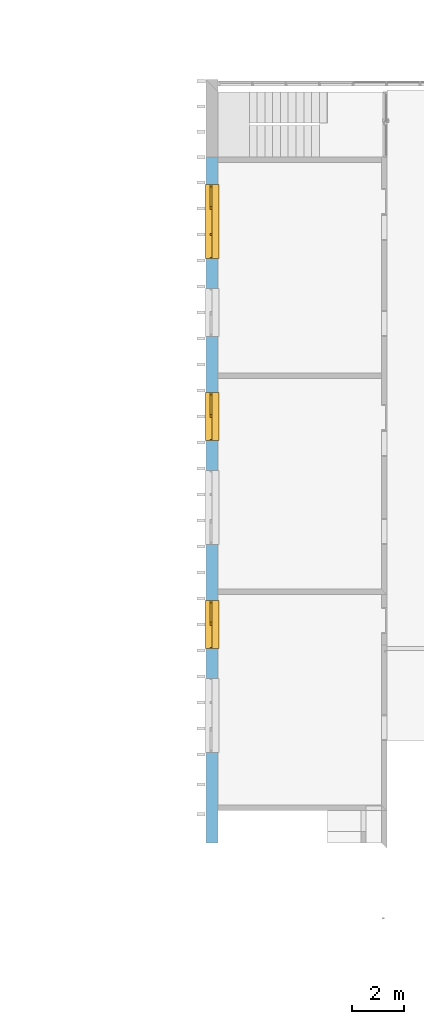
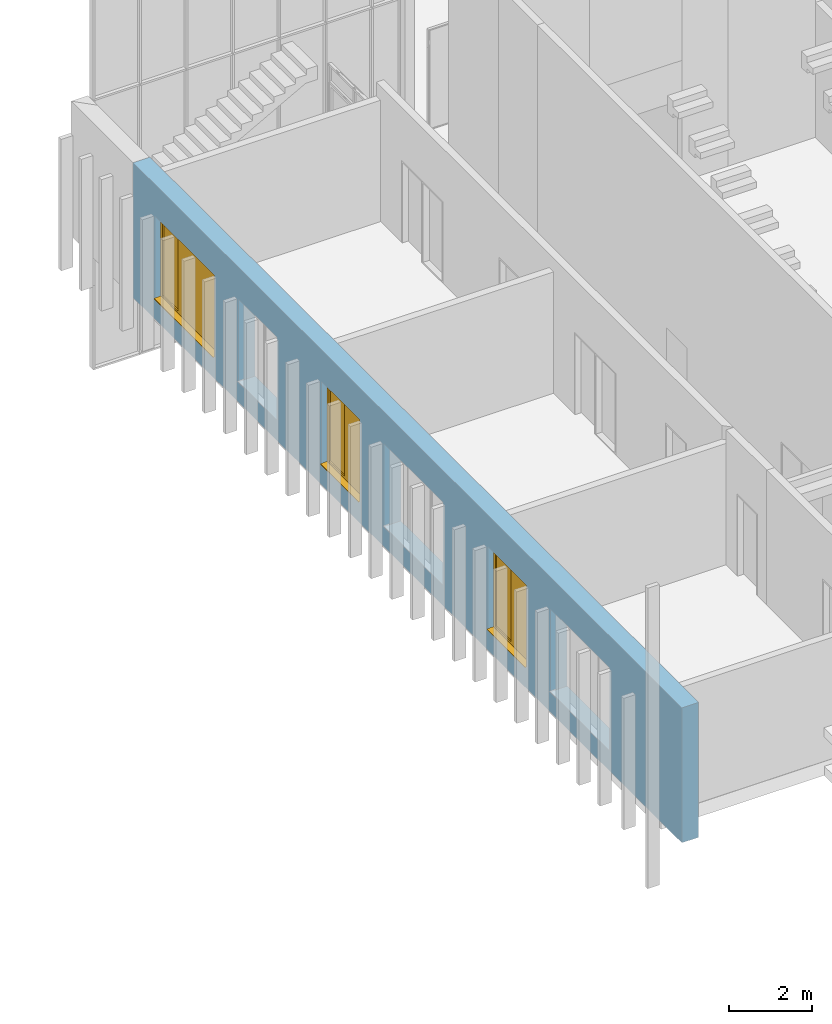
# One storey, part 33 of 62: 3 windows, 6 openings, plus 1 element that does not belong to this part.
"""IFC2X3 building model written with IfcOpenShell, lengths in millimetres."""

from ifc_helpers import new_model, entity, si_unit, converted_unit, derived_unit, money_unit, direction, frame, origin_with_axes, origin_2d_with_axis, place, context, subcontext, project, spatial, polyline, rectangle, outline, extrude, open_shell, faceted_brep, surface_model, material, layer, layer_set, layer_usage, type_object, element, fill, save


model = new_model("IFC2X3")

# Units and contexts
model_context = context("Model", 3, precision=0.01, world=origin_with_axes(), true_north=direction((0.0, 1.0)))
body_context = subcontext(model_context, "Body", "Model", "MODEL_VIEW")
ifc_project = project(units=[si_unit("LENGTHUNIT", "METRE", prefix="MILLI"), si_unit("AREAUNIT", "SQUARE_METRE"), si_unit("VOLUMEUNIT", "CUBIC_METRE"), converted_unit("PLANEANGLEUNIT", "DEGREE", entity("IfcPlaneAngleMeasure", 0.0174532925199), si_unit("PLANEANGLEUNIT", "RADIAN"), dimensions=[0, 0, 0, 0, 0, 0, 0]), si_unit("SOLIDANGLEUNIT", "STERADIAN"), money_unit("EUR"), converted_unit("TIMEUNIT", "Year", entity("IfcTimeMeasure", 31556926.0), si_unit("TIMEUNIT", "SECOND"), dimensions=[0, 0, 1, 0, 0, 0, 0]), si_unit("MASSUNIT", "GRAM", prefix="KILO"), si_unit("THERMODYNAMICTEMPERATUREUNIT", "DEGREE_CELSIUS"), si_unit("LUMINOUSINTENSITYUNIT", "LUMEN"), si_unit("ENERGYUNIT", "JOULE", prefix="MEGA"), derived_unit("THERMALCONDUCTANCEUNIT", [(si_unit("POWERUNIT", "WATT"), 1), (si_unit("LENGTHUNIT", "METRE"), -1), (si_unit("THERMODYNAMICTEMPERATUREUNIT", "KELVIN"), -1)]), derived_unit("SPECIFICHEATCAPACITYUNIT", [(si_unit("ENERGYUNIT", "JOULE"), 1), (si_unit("MASSUNIT", "GRAM", prefix="KILO"), -1), (si_unit("THERMODYNAMICTEMPERATUREUNIT", "KELVIN"), -1)]), derived_unit("MASSDENSITYUNIT", [(si_unit("MASSUNIT", "GRAM", prefix="KILO"), 1), (si_unit("VOLUMEUNIT", "CUBIC_METRE"), -1)])], contexts=[model_context])

# Site, building, storey
site_placement = place(None, origin_with_axes())
site = spatial("IfcSite", under=ifc_project, at=site_placement, Name="Puškini 31, Narva", CompositionType="ELEMENT")
building_placement = place(site_placement, origin_with_axes())
building = spatial("IfcBuilding", under=site, at=building_placement, Name="Narva Riigigümnaasium", CompositionType="ELEMENT")
storey_placement = place(building_placement, frame((0.0, 0.0, 660.0), z_axis=(0.0, 0.0, 1.0), x_axis=(1.0, 0.0, 0.0)))
storey = spatial("IfcBuildingStorey", under=building, at=storey_placement, Name="2.korrus +0.66", CompositionType="ELEMENT", Elevation=660.0)

# Wall, openings, windows
ifc_material_1 = material(Name="fassaadiplaat")
ifc_layer_1 = layer(ifc_material_1, 8.0, ventilated="UNKNOWN")
ifc_material_2 = material(Name="Salto-roovitus")
ifc_layer_2 = layer(ifc_material_2, 50.0, ventilated="UNKNOWN")
ifc_material_3 = material(Name="Salto-PIR soojustus")
ifc_layer_3 = layer(ifc_material_3, 50.0, ventilated="UNKNOWN")
ifc_layer_4 = layer(ifc_material_3, 150.0, ventilated="UNKNOWN")
ifc_material_4 = material(Name="Betoon element")
ifc_layer_5 = layer(ifc_material_4, 200.0, ventilated="UNKNOWN")
ifc_material_5 = material(Name="Salto-siseviimistlus-seinad")
ifc_layer_6 = layer(ifc_material_5, 10.0, ventilated="UNKNOWN")
ifc_layer_set = layer_set([ifc_layer_1, ifc_layer_2, ifc_layer_3, ifc_layer_4, ifc_layer_5, ifc_layer_6], Name="G-VS-01")
ifc_layer_usage = layer_usage(ifc_layer_set, "AXIS2", "NEGATIVE", 458.0)
wall_type = type_object("IfcWallType", Name="G-VS-01 468", PredefinedType="NOTDEFINED")
wall_placement = place(storey_placement, frame((28400.0401775, 194899.999976, 0.0), z_axis=(0.0, 0.0, 1.0), x_axis=(0.0, 1.0, 0.0)))
wall = element("IfcWallStandardCase", 1, at=wall_placement, inside=storey, type_object=wall_type, material=ifc_layer_usage, Name="Välissein", context=body_context, shape_type="SweptSolid", body=[
    extrude(outline(polyline([(2.37781989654e-05, -10.0), (26380.0000226, -10.0), (26380.0000226, 458.0), (2.37781989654e-05, 458.0), (2.37781989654e-05, -10.0)])), origin_with_axes(), (0.0, 0.0, 1.0), 3960.0),
])
opening_1_placement = place(wall_placement, frame((23900.0000267, 0.0, 600.0), z_axis=(0.0, 0.0, 1.0), x_axis=(1.0, 0.0, 0.0)))
opening_1 = element("IfcOpeningElement", 2, at=opening_1_placement, cuts=wall, Name="G-A-38", context=body_context, shape_type="SweptSolid", body=[
    extrude(rectangle(XDim=2849.99999873, YDim=2430.0, at=origin_2d_with_axis()), frame((0.0, 308.0, 1215.0), z_axis=(0.0, 1.0, 0.0), x_axis=(-1.0, 0.0, 0.0)), (0.0, 0.0, -1.0), 786.0),
    extrude(rectangle(XDim=2849.99999873, YDim=2430.0, at=origin_2d_with_axis()), frame((0.0, 308.0, 1215.0), z_axis=(0.0, -1.0, 0.0), x_axis=(-1.0, 0.0, 0.0)), (0.0, 0.0, -1.0), 618.0),
])
opening_2_placement = place(wall_placement, frame((16400.00003, 0.0, 600.0), z_axis=(0.0, 0.0, 1.0), x_axis=(1.0, 0.0, 0.0)))
opening_2 = element("IfcOpeningElement", 3, at=opening_2_placement, cuts=wall, Name="G-A-36", context=body_context, shape_type="SweptSolid", body=[
    extrude(rectangle(XDim=1849.99999918, YDim=2430.0, at=origin_2d_with_axis()), frame((0.0, 308.0, 1215.0), z_axis=(0.0, 1.0, 0.0), x_axis=(-1.0, 0.0, 0.0)), (0.0, 0.0, -1.0), 786.0),
    extrude(rectangle(XDim=1849.99999918, YDim=2430.0, at=origin_2d_with_axis()), frame((0.0, 308.0, 1215.0), z_axis=(0.0, -1.0, 0.0), x_axis=(-1.0, 0.0, 0.0)), (0.0, 0.0, -1.0), 618.0),
])
opening_3_placement = place(wall_placement, frame((8400.005406, 0.0, 600.0), z_axis=(0.0, 0.0, 1.0), x_axis=(1.0, 0.0, 0.0)))
opening_3 = element("IfcOpeningElement", 4, at=opening_3_placement, cuts=wall, Name="G-A-36", context=body_context, shape_type="SweptSolid", body=[
    extrude(rectangle(XDim=1850.0, YDim=2430.0, at=origin_2d_with_axis()), frame((0.0, 308.0, 1215.0), z_axis=(0.0, 1.0, 0.0), x_axis=(-1.0, 0.0, 0.0)), (0.0, 0.0, -1.0), 786.0),
    extrude(rectangle(XDim=1850.0, YDim=2430.0, at=origin_2d_with_axis()), frame((0.0, 308.0, 1215.0), z_axis=(0.0, -1.0, 0.0), x_axis=(-1.0, 0.0, 0.0)), (0.0, 0.0, -1.0), 618.0),
])
opening_4_placement = place(wall_placement, frame((20400.0000282, 0.0, 600.0), z_axis=(0.0, 0.0, 1.0), x_axis=(1.0, 0.0, 0.0)))
element("IfcOpeningElement", 5, at=opening_4_placement, cuts=wall, Name="G-A-36", context=body_context, shape_type="SweptSolid", body=[
    extrude(rectangle(XDim=1849.99999918, YDim=2430.0, at=origin_2d_with_axis()), frame((0.0, 308.0, 1215.0), z_axis=(0.0, -1.0, 0.0), x_axis=(1.0, 0.0, 0.0)), (0.0, 0.0, 1.0), 786.0),
    extrude(rectangle(XDim=1849.99999918, YDim=2430.0, at=origin_2d_with_axis()), frame((0.0, 308.0, 1215.0), z_axis=(0.0, 1.0, 0.0), x_axis=(1.0, 0.0, 0.0)), (0.0, 0.0, 1.0), 618.0),
])
opening_5_placement = place(wall_placement, frame((12900.0000316, 0.0, 600.0), z_axis=(0.0, 0.0, 1.0), x_axis=(1.0, 0.0, 0.0)))
element("IfcOpeningElement", 6, at=opening_5_placement, cuts=wall, Name="G-A-38", context=body_context, shape_type="SweptSolid", body=[
    extrude(rectangle(XDim=2849.99999873, YDim=2430.0, at=origin_2d_with_axis()), frame((0.0, 308.0, 1215.0), z_axis=(0.0, -1.0, 0.0), x_axis=(1.0, 0.0, 0.0)), (0.0, 0.0, 1.0), 786.0),
    extrude(rectangle(XDim=2849.99999873, YDim=2430.0, at=origin_2d_with_axis()), frame((0.0, 308.0, 1215.0), z_axis=(0.0, 1.0, 0.0), x_axis=(1.0, 0.0, 0.0)), (0.0, 0.0, 1.0), 618.0),
])
opening_6_placement = place(wall_placement, frame((4900.00003512, 0.0, 600.0), z_axis=(0.0, 0.0, 1.0), x_axis=(1.0, 0.0, 0.0)))
element("IfcOpeningElement", 7, at=opening_6_placement, cuts=wall, Name="G-A-38", context=body_context, shape_type="SweptSolid", body=[
    extrude(rectangle(XDim=2849.99999873, YDim=2430.0, at=origin_2d_with_axis()), frame((0.0, 308.0, 1215.0), z_axis=(0.0, -1.0, 0.0), x_axis=(1.0, 0.0, 0.0)), (0.0, 0.0, 1.0), 786.0),
    extrude(rectangle(XDim=2849.99999873, YDim=2430.0, at=origin_2d_with_axis()), frame((0.0, 308.0, 1215.0), z_axis=(0.0, 1.0, 0.0), x_axis=(1.0, 0.0, 0.0)), (0.0, 0.0, 1.0), 618.0),
])
window_style_1 = type_object("IfcWindowStyle", Name="Horizontal Multi-Sash Window 23", ConstructionType="NOTDEFINED", OperationType="DOUBLE_PANEL_VERTICAL", ParameterTakesPrecedence=False, Sizeable=False)
window_1_placement = place(opening_2_placement, frame((924.999999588, 0.0, 0.0), z_axis=(0.0, 0.0, 1.0), x_axis=(-1.0, 0.0, 0.0)))
window_1 = element("IfcWindow", 8, at=window_1_placement, inside=storey, type_object=window_style_1, Name="G-A-36", ObjectType="WINDOW", OverallHeight=2430.0, OverallWidth=1850.0, context=body_context, shape_type="SurfaceModel", body=[
    surface_model("IfcShellBasedSurfaceModel", [(0.0, -309.0, 50.0), (0.0, -309.0, 40.0), (1849.99999918, -309.0, 40.0), (1849.99999918, -309.0, 50.0), (0.0, -488.0, 28.0), (1849.99999918, -488.0, 28.0), (0.0, -488.0, 8.0), (1849.99999918, -488.0, 8.0), (0.0, -478.0, 18.0), (1849.99999918, -478.0, 18.0)], [open_shell([[[0, 1, 2, 3]], [[1, 4, 5, 2]], [[4, 6, 7, 5]], [[6, 8, 9, 7]]])]),
    faceted_brep([(1849.99999918, -233.0, 0.0), (1849.99999918, 10.0, 0.0), (1849.99999918, 10.0, 25.0), (1849.99999918, -233.0, 25.0), (0.0, -233.0, 0.0), (0.0, 10.0, 0.0), (0.0, 40.0, 0.0), (1849.99999918, 40.0, 0.0), (1849.99999918, 40.0, 25.0), (0.0, 40.0, 25.0), (0.0, 10.0, 25.0), (0.0, -233.0, 25.0)], [[[0, 1, 2, 3]], [[0, 4, 5, 6, 7, 1]], [[1, 7, 8, 2]], [[3, 2, 8, 9, 10, 11]], [[4, 0, 3, 11]], [[5, 4, 11, 10]], [[6, 5, 10, 9]], [[7, 6, 9, 8]]]),
    faceted_brep([(40.0, -233.0, 2380.0), (0.0, -233.0, 2380.0), (0.0, -308.0, 2380.0), (50.0, -308.0, 2380.0), (50.0, -303.0, 2380.0), (40.0, -303.0, 2380.0), (40.0, -233.0, 50.0), (0.0, -233.0, 50.0), (0.0, -308.0, 50.0), (50.0, -308.0, 50.0), (50.0, -303.0, 50.0), (40.0, -303.0, 50.0)], [[[0, 1, 2, 3, 4, 5]], [[6, 7, 1, 0]], [[1, 7, 8, 2]], [[2, 8, 9, 3]], [[4, 3, 9, 10]], [[10, 11, 5, 4]], [[5, 11, 6, 0]], [[11, 10, 9, 8, 7, 6]]]),
    faceted_brep([(40.0, -233.0, 2380.0), (0.0, -233.0, 2380.0), (0.0, -233.0, 2430.0), (1849.99999918, -233.0, 2430.0), (1849.99999918, -233.0, 2380.0), (1799.99999918, -233.0, 2380.0), (962.499999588, -233.0, 2380.0), (897.499999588, -233.0, 2380.0), (897.499999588, -233.0, 2390.0), (40.0, -233.0, 2390.0), (40.0, -303.0, 2380.0), (50.0, -303.0, 2380.0), (50.0, -308.0, 2380.0), (0.0, -308.0, 2380.0), (0.0, -308.0, 2430.0), (1849.99999918, -308.0, 2430.0), (1849.99999918, -308.0, 2380.0), (1799.99999918, -308.0, 2380.0), (962.499999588, -308.0, 2380.0), (897.499999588, -303.0, 2380.0), (887.499999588, -308.0, 2380.0), (887.499999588, -303.0, 2380.0), (897.499999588, -303.0, 2390.0), (40.0, -303.0, 2390.0)], [[[0, 1, 2, 3, 4, 5, 6, 7, 8, 9]], [[10, 11, 12, 13, 1, 0]], [[2, 1, 13, 14]], [[3, 2, 14, 15]], [[4, 3, 15, 16]], [[5, 4, 16, 17]], [[6, 5, 17, 18]], [[19, 7, 6, 18, 20, 21]], [[7, 19, 22, 8]], [[8, 22, 23, 9]], [[9, 23, 10, 0]], [[21, 11, 10, 23, 22, 19]], [[21, 20, 12, 11]], [[16, 15, 14, 13, 12, 20, 18, 17]]]),
    faceted_brep([(887.499999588, -303.0, 50.0), (887.499999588, -308.0, 50.0), (962.499999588, -308.0, 50.0), (962.499999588, -233.0, 50.0), (897.499999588, -233.0, 50.0), (897.499999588, -303.0, 50.0), (50.0, -303.0, 50.0), (50.0, -308.0, 50.0), (0.0, -308.0, 50.0), (0.0, -308.0, 0.0), (1849.99999918, -308.0, 0.0), (1849.99999918, -308.0, 50.0), (1799.99999918, -308.0, 50.0), (1799.99999918, -233.0, 50.0), (40.0, -233.0, 40.0), (897.499999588, -233.0, 40.0), (1849.99999918, -233.0, 50.0), (1849.99999918, -233.0, 0.0), (0.0, -233.0, 0.0), (0.0, -233.0, 50.0), (40.0, -233.0, 50.0), (897.499999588, -303.0, 40.0), (40.0, -303.0, 40.0), (40.0, -303.0, 50.0)], [[[0, 1, 2, 3, 4, 5]], [[6, 7, 1, 0]], [[1, 7, 8, 9, 10, 11, 12, 2]], [[13, 3, 2, 12]], [[14, 15, 4, 3, 13, 16, 17, 18, 19, 20]], [[15, 21, 5, 4]], [[5, 21, 22, 23, 6, 0]], [[23, 20, 19, 8, 7, 6]], [[19, 18, 9, 8]], [[18, 17, 10, 9]], [[17, 16, 11, 10]], [[16, 13, 12, 11]], [[14, 22, 21, 15]], [[23, 22, 14, 20]]]),
    faceted_brep([(887.499999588, -303.0, 2380.0), (887.499999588, -308.0, 2380.0), (962.499999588, -308.0, 2380.0), (962.499999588, -233.0, 2380.0), (897.499999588, -233.0, 2380.0), (897.499999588, -303.0, 2380.0), (887.499999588, -303.0, 50.0), (887.499999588, -308.0, 50.0), (962.499999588, -308.0, 50.0), (962.499999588, -233.0, 50.0), (897.499999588, -233.0, 50.0), (897.499999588, -303.0, 50.0)], [[[0, 1, 2, 3, 4, 5]], [[6, 7, 1, 0]], [[2, 1, 7, 8]], [[9, 3, 2, 8]], [[4, 3, 9, 10]], [[10, 11, 5, 4]], [[5, 11, 6, 0]], [[11, 10, 9, 8, 7, 6]]]),
    faceted_brep([(1799.99999918, -308.0, 50.0), (1799.99999918, -233.0, 50.0), (1849.99999918, -233.0, 50.0), (1849.99999918, -308.0, 50.0), (1799.99999918, -308.0, 2380.0), (1799.99999918, -233.0, 2380.0), (1849.99999918, -233.0, 2380.0), (1849.99999918, -308.0, 2380.0)], [[[0, 1, 2, 3]], [[4, 5, 1, 0]], [[1, 5, 6, 2]], [[3, 2, 6, 7]], [[0, 3, 7, 4]], [[7, 6, 5, 4]]]),
    faceted_brep([(100.0, -303.0, 2330.0), (100.0, -218.0, 2330.0), (40.0, -218.0, 2330.0), (40.0, -303.0, 2330.0), (100.0, -303.0, 100.0), (100.0, -218.0, 100.0), (40.0, -218.0, 100.0), (40.0, -303.0, 100.0)], [[[0, 1, 2, 3]], [[4, 5, 1, 0]], [[1, 5, 6, 2]], [[3, 2, 6, 7]], [[0, 3, 7, 4]], [[7, 6, 5, 4]]]),
    faceted_brep([(837.499999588, -303.0, 100.0), (837.499999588, -218.0, 100.0), (897.499999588, -218.0, 100.0), (897.499999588, -303.0, 100.0), (837.499999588, -303.0, 2330.0), (837.499999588, -218.0, 2330.0), (897.499999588, -218.0, 2330.0), (897.499999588, -303.0, 2330.0)], [[[0, 1, 2, 3]], [[4, 5, 1, 0]], [[1, 5, 6, 2]], [[3, 2, 6, 7]], [[0, 3, 7, 4]], [[7, 6, 5, 4]]]),
    faceted_brep([(897.499999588, -303.0, 40.0), (897.499999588, -218.0, 40.0), (897.499999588, -218.0, 100.0), (897.499999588, -303.0, 100.0), (40.0, -303.0, 40.0), (40.0, -218.0, 40.0), (40.0, -218.0, 100.0), (100.0, -218.0, 100.0), (837.499999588, -218.0, 100.0), (837.499999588, -303.0, 100.0), (100.0, -303.0, 100.0), (40.0, -303.0, 100.0)], [[[0, 1, 2, 3]], [[4, 5, 1, 0]], [[1, 5, 6, 7, 8, 2]], [[3, 2, 8, 9]], [[0, 3, 9, 10, 11, 4]], [[11, 6, 5, 4]], [[10, 7, 6, 11]], [[9, 8, 7, 10]]]),
    faceted_brep([(40.0, -303.0, 2390.0), (40.0, -218.0, 2390.0), (40.0, -218.0, 2330.0), (40.0, -303.0, 2330.0), (897.499999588, -303.0, 2390.0), (897.499999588, -218.0, 2390.0), (897.499999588, -218.0, 2330.0), (837.499999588, -218.0, 2330.0), (100.0, -218.0, 2330.0), (100.0, -303.0, 2330.0), (837.499999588, -303.0, 2330.0), (897.499999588, -303.0, 2330.0)], [[[0, 1, 2, 3]], [[4, 5, 1, 0]], [[1, 5, 6, 7, 8, 2]], [[3, 2, 8, 9]], [[0, 3, 9, 10, 11, 4]], [[11, 6, 5, 4]], [[10, 7, 6, 11]], [[9, 8, 7, 10]]]),
    surface_model("IfcShellBasedSurfaceModel", [(100.0, -270.5, 100.0), (837.499999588, -270.5, 100.0), (837.499999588, -270.5, 2330.0), (100.0, -270.5, 2330.0)], [open_shell([[[0, 1, 2, 3]]])]),
    surface_model("IfcShellBasedSurfaceModel", [(100.0, -250.5, 100.0), (100.0, -250.5, 2330.0), (837.499999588, -250.5, 2330.0), (837.499999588, -250.5, 100.0)], [open_shell([[[0, 1, 2, 3]]])]),
    surface_model("IfcShellBasedSurfaceModel", [(962.499999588, -313.0, 50.0), (1799.99999918, -313.0, 50.0), (1799.99999918, -313.0, 2380.0), (962.499999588, -313.0, 2380.0)], [open_shell([[[0, 1, 2, 3]]])]),
    surface_model("IfcShellBasedSurfaceModel", [(962.499999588, -293.0, 50.0), (962.499999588, -293.0, 2380.0), (1799.99999918, -293.0, 2380.0), (1799.99999918, -293.0, 50.0)], [open_shell([[[0, 1, 2, 3]]])]),
])
fill(opening_2, window_1)
window_2_placement = place(opening_3_placement, frame((925.0, 0.0, 0.0), z_axis=(0.0, 0.0, 1.0), x_axis=(-1.0, 0.0, 0.0)))
window_2 = element("IfcWindow", 9, at=window_2_placement, inside=storey, type_object=window_style_1, Name="G-A-36", ObjectType="WINDOW", OverallHeight=2430.0, OverallWidth=1850.0, context=body_context, shape_type="SurfaceModel", body=[
    surface_model("IfcShellBasedSurfaceModel", [(0.0, -309.0, 50.0), (0.0, -309.0, 40.0), (1850.0, -309.0, 40.0), (1850.0, -309.0, 50.0), (0.0, -488.0, 28.0), (1850.0, -488.0, 28.0), (0.0, -488.0, 8.0), (1850.0, -488.0, 8.0), (0.0, -478.0, 18.0), (1850.0, -478.0, 18.0)], [open_shell([[[0, 1, 2, 3]], [[1, 4, 5, 2]], [[4, 6, 7, 5]], [[6, 8, 9, 7]]])]),
    faceted_brep([(1850.0, -233.0, 0.0), (1850.0, 10.0, 0.0), (1850.0, 10.0, 25.0), (1850.0, -233.0, 25.0), (0.0, -233.0, 0.0), (0.0, 10.0, 0.0), (0.0, 40.0, 0.0), (1850.0, 40.0, 0.0), (1850.0, 40.0, 25.0), (0.0, 40.0, 25.0), (0.0, 10.0, 25.0), (0.0, -233.0, 25.0)], [[[0, 1, 2, 3]], [[0, 4, 5, 6, 7, 1]], [[1, 7, 8, 2]], [[3, 2, 8, 9, 10, 11]], [[4, 0, 3, 11]], [[5, 4, 11, 10]], [[6, 5, 10, 9]], [[7, 6, 9, 8]]]),
    faceted_brep([(40.0, -233.0, 2380.0), (0.0, -233.0, 2380.0), (0.0, -308.0, 2380.0), (50.0, -308.0, 2380.0), (50.0, -303.0, 2380.0), (40.0, -303.0, 2380.0), (40.0, -233.0, 50.0), (0.0, -233.0, 50.0), (0.0, -308.0, 50.0), (50.0, -308.0, 50.0), (50.0, -303.0, 50.0), (40.0, -303.0, 50.0)], [[[0, 1, 2, 3, 4, 5]], [[6, 7, 1, 0]], [[1, 7, 8, 2]], [[2, 8, 9, 3]], [[4, 3, 9, 10]], [[10, 11, 5, 4]], [[5, 11, 6, 0]], [[11, 10, 9, 8, 7, 6]]]),
    faceted_brep([(40.0, -233.0, 2380.0), (0.0, -233.0, 2380.0), (0.0, -233.0, 2430.0), (1850.0, -233.0, 2430.0), (1850.0, -233.0, 2380.0), (1800.0, -233.0, 2380.0), (962.5, -233.0, 2380.0), (897.5, -233.0, 2380.0), (897.5, -233.0, 2390.0), (40.0, -233.0, 2390.0), (40.0, -303.0, 2380.0), (50.0, -303.0, 2380.0), (50.0, -308.0, 2380.0), (0.0, -308.0, 2380.0), (0.0, -308.0, 2430.0), (1850.0, -308.0, 2430.0), (1850.0, -308.0, 2380.0), (1800.0, -308.0, 2380.0), (962.5, -308.0, 2380.0), (897.5, -303.0, 2380.0), (887.5, -308.0, 2380.0), (887.5, -303.0, 2380.0), (897.5, -303.0, 2390.0), (40.0, -303.0, 2390.0)], [[[0, 1, 2, 3, 4, 5, 6, 7, 8, 9]], [[10, 11, 12, 13, 1, 0]], [[2, 1, 13, 14]], [[3, 2, 14, 15]], [[4, 3, 15, 16]], [[5, 4, 16, 17]], [[6, 5, 17, 18]], [[19, 7, 6, 18, 20, 21]], [[7, 19, 22, 8]], [[8, 22, 23, 9]], [[9, 23, 10, 0]], [[21, 11, 10, 23, 22, 19]], [[21, 20, 12, 11]], [[16, 15, 14, 13, 12, 20, 18, 17]]]),
    faceted_brep([(887.5, -303.0, 50.0), (887.5, -308.0, 50.0), (962.5, -308.0, 50.0), (962.5, -233.0, 50.0), (897.5, -233.0, 50.0), (897.5, -303.0, 50.0), (50.0, -303.0, 50.0), (50.0, -308.0, 50.0), (0.0, -308.0, 50.0), (0.0, -308.0, 0.0), (1850.0, -308.0, 0.0), (1850.0, -308.0, 50.0), (1800.0, -308.0, 50.0), (1800.0, -233.0, 50.0), (40.0, -233.0, 40.0), (897.5, -233.0, 40.0), (1850.0, -233.0, 50.0), (1850.0, -233.0, 0.0), (0.0, -233.0, 0.0), (0.0, -233.0, 50.0), (40.0, -233.0, 50.0), (897.5, -303.0, 40.0), (40.0, -303.0, 40.0), (40.0, -303.0, 50.0)], [[[0, 1, 2, 3, 4, 5]], [[6, 7, 1, 0]], [[1, 7, 8, 9, 10, 11, 12, 2]], [[13, 3, 2, 12]], [[14, 15, 4, 3, 13, 16, 17, 18, 19, 20]], [[15, 21, 5, 4]], [[5, 21, 22, 23, 6, 0]], [[23, 20, 19, 8, 7, 6]], [[19, 18, 9, 8]], [[18, 17, 10, 9]], [[17, 16, 11, 10]], [[16, 13, 12, 11]], [[14, 22, 21, 15]], [[23, 22, 14, 20]]]),
    faceted_brep([(887.5, -303.0, 2380.0), (887.5, -308.0, 2380.0), (962.5, -308.0, 2380.0), (962.5, -233.0, 2380.0), (897.5, -233.0, 2380.0), (897.5, -303.0, 2380.0), (887.5, -303.0, 50.0), (887.5, -308.0, 50.0), (962.5, -308.0, 50.0), (962.5, -233.0, 50.0), (897.5, -233.0, 50.0), (897.5, -303.0, 50.0)], [[[0, 1, 2, 3, 4, 5]], [[6, 7, 1, 0]], [[2, 1, 7, 8]], [[9, 3, 2, 8]], [[4, 3, 9, 10]], [[10, 11, 5, 4]], [[5, 11, 6, 0]], [[11, 10, 9, 8, 7, 6]]]),
    faceted_brep([(1800.0, -308.0, 50.0), (1800.0, -233.0, 50.0), (1850.0, -233.0, 50.0), (1850.0, -308.0, 50.0), (1800.0, -308.0, 2380.0), (1800.0, -233.0, 2380.0), (1850.0, -233.0, 2380.0), (1850.0, -308.0, 2380.0)], [[[0, 1, 2, 3]], [[4, 5, 1, 0]], [[1, 5, 6, 2]], [[3, 2, 6, 7]], [[0, 3, 7, 4]], [[7, 6, 5, 4]]]),
    faceted_brep([(100.0, -303.0, 2330.0), (100.0, -218.0, 2330.0), (40.0, -218.0, 2330.0), (40.0, -303.0, 2330.0), (100.0, -303.0, 100.0), (100.0, -218.0, 100.0), (40.0, -218.0, 100.0), (40.0, -303.0, 100.0)], [[[0, 1, 2, 3]], [[4, 5, 1, 0]], [[1, 5, 6, 2]], [[3, 2, 6, 7]], [[0, 3, 7, 4]], [[7, 6, 5, 4]]]),
    faceted_brep([(837.5, -303.0, 100.0), (837.5, -218.0, 100.0), (897.5, -218.0, 100.0), (897.5, -303.0, 100.0), (837.5, -303.0, 2330.0), (837.5, -218.0, 2330.0), (897.5, -218.0, 2330.0), (897.5, -303.0, 2330.0)], [[[0, 1, 2, 3]], [[4, 5, 1, 0]], [[1, 5, 6, 2]], [[3, 2, 6, 7]], [[0, 3, 7, 4]], [[7, 6, 5, 4]]]),
    faceted_brep([(897.5, -303.0, 40.0), (897.5, -218.0, 40.0), (897.5, -218.0, 100.0), (897.5, -303.0, 100.0), (40.0, -303.0, 40.0), (40.0, -218.0, 40.0), (40.0, -218.0, 100.0), (100.0, -218.0, 100.0), (837.5, -218.0, 100.0), (837.5, -303.0, 100.0), (100.0, -303.0, 100.0), (40.0, -303.0, 100.0)], [[[0, 1, 2, 3]], [[4, 5, 1, 0]], [[1, 5, 6, 7, 8, 2]], [[3, 2, 8, 9]], [[0, 3, 9, 10, 11, 4]], [[11, 6, 5, 4]], [[10, 7, 6, 11]], [[9, 8, 7, 10]]]),
    faceted_brep([(40.0, -303.0, 2390.0), (40.0, -218.0, 2390.0), (40.0, -218.0, 2330.0), (40.0, -303.0, 2330.0), (897.5, -303.0, 2390.0), (897.5, -218.0, 2390.0), (897.5, -218.0, 2330.0), (837.5, -218.0, 2330.0), (100.0, -218.0, 2330.0), (100.0, -303.0, 2330.0), (837.5, -303.0, 2330.0), (897.5, -303.0, 2330.0)], [[[0, 1, 2, 3]], [[4, 5, 1, 0]], [[1, 5, 6, 7, 8, 2]], [[3, 2, 8, 9]], [[0, 3, 9, 10, 11, 4]], [[11, 6, 5, 4]], [[10, 7, 6, 11]], [[9, 8, 7, 10]]]),
    surface_model("IfcShellBasedSurfaceModel", [(100.0, -270.5, 100.0), (837.5, -270.5, 100.0), (837.5, -270.5, 2330.0), (100.0, -270.5, 2330.0)], [open_shell([[[0, 1, 2, 3]]])]),
    surface_model("IfcShellBasedSurfaceModel", [(100.0, -250.5, 100.0), (100.0, -250.5, 2330.0), (837.5, -250.5, 2330.0), (837.5, -250.5, 100.0)], [open_shell([[[0, 1, 2, 3]]])]),
    surface_model("IfcShellBasedSurfaceModel", [(962.5, -313.0, 50.0), (1800.0, -313.0, 50.0), (1800.0, -313.0, 2380.0), (962.5, -313.0, 2380.0)], [open_shell([[[0, 1, 2, 3]]])]),
    surface_model("IfcShellBasedSurfaceModel", [(962.5, -293.0, 50.0), (962.5, -293.0, 2380.0), (1800.0, -293.0, 2380.0), (1800.0, -293.0, 50.0)], [open_shell([[[0, 1, 2, 3]]])]),
])
fill(opening_3, window_2)
window_style_2 = type_object("IfcWindowStyle", Name="Horizontal Multi-Sash Window 23", ConstructionType="NOTDEFINED", OperationType="TRIPLE_PANEL_VERTICAL", ParameterTakesPrecedence=False, Sizeable=False)
window_3_placement = place(opening_1_placement, frame((1424.99999937, 0.0, 0.0), z_axis=(0.0, 0.0, 1.0), x_axis=(-1.0, 0.0, 0.0)))
window_3 = element("IfcWindow", 10, at=window_3_placement, inside=storey, type_object=window_style_2, Name="G-A-38", ObjectType="WINDOW", OverallHeight=2430.0, OverallWidth=2850.0, context=body_context, shape_type="SurfaceModel", body=[
    surface_model("IfcShellBasedSurfaceModel", [(0.0, -309.0, 50.0), (0.0, -309.0, 40.0), (2849.99999873, -309.0, 40.0), (2849.99999873, -309.0, 50.0), (0.0, -488.0, 28.0), (2849.99999873, -488.0, 28.0), (0.0, -488.0, 8.0), (2849.99999873, -488.0, 8.0), (0.0, -478.0, 18.0), (2849.99999873, -478.0, 18.0)], [open_shell([[[0, 1, 2, 3]], [[1, 4, 5, 2]], [[4, 6, 7, 5]], [[6, 8, 9, 7]]])]),
    faceted_brep([(2849.99999873, -233.0, 0.0), (2849.99999873, 10.0, 0.0), (2849.99999873, 10.0, 25.0), (2849.99999873, -233.0, 25.0), (0.0, -233.0, 0.0), (0.0, 10.0, 0.0), (0.0, 40.0, 0.0), (2849.99999873, 40.0, 0.0), (2849.99999873, 40.0, 25.0), (0.0, 40.0, 25.0), (0.0, 10.0, 25.0), (0.0, -233.0, 25.0)], [[[0, 1, 2, 3]], [[0, 4, 5, 6, 7, 1]], [[1, 7, 8, 2]], [[3, 2, 8, 9, 10, 11]], [[4, 0, 3, 11]], [[5, 4, 11, 10]], [[6, 5, 10, 9]], [[7, 6, 9, 8]]]),
    faceted_brep([(40.0, -233.0, 2380.0), (0.0, -233.0, 2380.0), (0.0, -308.0, 2380.0), (50.0, -308.0, 2380.0), (50.0, -303.0, 2380.0), (40.0, -303.0, 2380.0), (40.0, -233.0, 50.0), (0.0, -233.0, 50.0), (0.0, -308.0, 50.0), (50.0, -308.0, 50.0), (50.0, -303.0, 50.0), (40.0, -303.0, 50.0)], [[[0, 1, 2, 3, 4, 5]], [[6, 7, 1, 0]], [[1, 7, 8, 2]], [[2, 8, 9, 3]], [[4, 3, 9, 10]], [[10, 11, 5, 4]], [[5, 11, 6, 0]], [[11, 10, 9, 8, 7, 6]]]),
    faceted_brep([(40.0, -233.0, 2380.0), (0.0, -233.0, 2380.0), (0.0, -233.0, 2430.0), (2849.99999873, -233.0, 2430.0), (2849.99999873, -233.0, 2380.0), (2799.99999873, -233.0, 2380.0), (1962.51014632, -233.0, 2380.0), (1887.51014632, -233.0, 2380.0), (962.510146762, -233.0, 2380.0), (897.510146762, -233.0, 2380.0), (897.510146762, -233.0, 2390.0), (40.0, -233.0, 2390.0), (40.0, -303.0, 2380.0), (50.0, -303.0, 2380.0), (50.0, -308.0, 2380.0), (0.0, -308.0, 2380.0), (0.0, -308.0, 2430.0), (2849.99999873, -308.0, 2430.0), (2849.99999873, -308.0, 2380.0), (2799.99999873, -308.0, 2380.0), (1962.51014632, -308.0, 2380.0), (1887.51014632, -308.0, 2380.0), (962.510146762, -308.0, 2380.0), (897.510146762, -303.0, 2380.0), (887.510146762, -308.0, 2380.0), (887.510146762, -303.0, 2380.0), (897.510146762, -303.0, 2390.0), (40.0, -303.0, 2390.0)], [[[0, 1, 2, 3, 4, 5, 6, 7, 8, 9, 10, 11]], [[12, 13, 14, 15, 1, 0]], [[2, 1, 15, 16]], [[3, 2, 16, 17]], [[4, 3, 17, 18]], [[5, 4, 18, 19]], [[6, 5, 19, 20]], [[7, 6, 20, 21]], [[8, 7, 21, 22]], [[23, 9, 8, 22, 24, 25]], [[9, 23, 26, 10]], [[10, 26, 27, 11]], [[11, 27, 12, 0]], [[25, 13, 12, 27, 26, 23]], [[25, 24, 14, 13]], [[18, 17, 16, 15, 14, 24, 22, 21, 20, 19]]]),
    faceted_brep([(887.510146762, -303.0, 50.0), (887.510146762, -308.0, 50.0), (962.510146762, -308.0, 50.0), (962.510146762, -233.0, 50.0), (897.510146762, -233.0, 50.0), (897.510146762, -303.0, 50.0), (50.0, -303.0, 50.0), (50.0, -308.0, 50.0), (1887.51014632, -308.0, 50.0), (0.0, -308.0, 50.0), (0.0, -308.0, 0.0), (2849.99999873, -308.0, 0.0), (2849.99999873, -308.0, 50.0), (2799.99999873, -308.0, 50.0), (1962.51014632, -308.0, 50.0), (1887.51014632, -233.0, 50.0), (40.0, -233.0, 40.0), (897.510146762, -233.0, 40.0), (1962.51014632, -233.0, 50.0), (2799.99999873, -233.0, 50.0), (2849.99999873, -233.0, 50.0), (2849.99999873, -233.0, 0.0), (0.0, -233.0, 0.0), (0.0, -233.0, 50.0), (40.0, -233.0, 50.0), (897.510146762, -303.0, 40.0), (40.0, -303.0, 40.0), (40.0, -303.0, 50.0)], [[[0, 1, 2, 3, 4, 5]], [[6, 7, 1, 0]], [[8, 2, 1, 7, 9, 10, 11, 12, 13, 14]], [[15, 3, 2, 8]], [[16, 17, 4, 3, 15, 18, 19, 20, 21, 22, 23, 24]], [[17, 25, 5, 4]], [[5, 25, 26, 27, 6, 0]], [[27, 24, 23, 9, 7, 6]], [[23, 22, 10, 9]], [[22, 21, 11, 10]], [[21, 20, 12, 11]], [[20, 19, 13, 12]], [[19, 18, 14, 13]], [[18, 15, 8, 14]], [[16, 26, 25, 17]], [[27, 26, 16, 24]]]),
    faceted_brep([(887.510146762, -303.0, 2380.0), (887.510146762, -308.0, 2380.0), (962.510146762, -308.0, 2380.0), (962.510146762, -233.0, 2380.0), (897.510146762, -233.0, 2380.0), (897.510146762, -303.0, 2380.0), (887.510146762, -303.0, 50.0), (887.510146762, -308.0, 50.0), (962.510146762, -308.0, 50.0), (962.510146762, -233.0, 50.0), (897.510146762, -233.0, 50.0), (897.510146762, -303.0, 50.0)], [[[0, 1, 2, 3, 4, 5]], [[6, 7, 1, 0]], [[2, 1, 7, 8]], [[9, 3, 2, 8]], [[4, 3, 9, 10]], [[10, 11, 5, 4]], [[5, 11, 6, 0]], [[11, 10, 9, 8, 7, 6]]]),
    faceted_brep([(2799.99999873, -308.0, 50.0), (2799.99999873, -233.0, 50.0), (2849.99999873, -233.0, 50.0), (2849.99999873, -308.0, 50.0), (2799.99999873, -308.0, 2380.0), (2799.99999873, -233.0, 2380.0), (2849.99999873, -233.0, 2380.0), (2849.99999873, -308.0, 2380.0)], [[[0, 1, 2, 3]], [[4, 5, 1, 0]], [[1, 5, 6, 2]], [[3, 2, 6, 7]], [[0, 3, 7, 4]], [[7, 6, 5, 4]]]),
    faceted_brep([(1962.51014632, -308.0, 50.0), (1962.51014632, -233.0, 50.0), (1962.51014632, -233.0, 2380.0), (1962.51014632, -308.0, 2380.0), (1887.51014632, -308.0, 50.0), (1887.51014632, -233.0, 50.0), (1887.51014632, -233.0, 2380.0), (1887.51014632, -308.0, 2380.0)], [[[0, 1, 2, 3]], [[4, 5, 1, 0]], [[1, 5, 6, 2]], [[3, 2, 6, 7]], [[0, 3, 7, 4]], [[7, 6, 5, 4]]]),
    faceted_brep([(100.0, -303.0, 2330.0), (100.0, -218.0, 2330.0), (40.0, -218.0, 2330.0), (40.0, -303.0, 2330.0), (100.0, -303.0, 100.0), (100.0, -218.0, 100.0), (40.0, -218.0, 100.0), (40.0, -303.0, 100.0)], [[[0, 1, 2, 3]], [[4, 5, 1, 0]], [[1, 5, 6, 2]], [[3, 2, 6, 7]], [[0, 3, 7, 4]], [[7, 6, 5, 4]]]),
    faceted_brep([(837.510146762, -303.0, 100.0), (837.510146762, -218.0, 100.0), (897.510146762, -218.0, 100.0), (897.510146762, -303.0, 100.0), (837.510146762, -303.0, 2330.0), (837.510146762, -218.0, 2330.0), (897.510146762, -218.0, 2330.0), (897.510146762, -303.0, 2330.0)], [[[0, 1, 2, 3]], [[4, 5, 1, 0]], [[1, 5, 6, 2]], [[3, 2, 6, 7]], [[0, 3, 7, 4]], [[7, 6, 5, 4]]]),
    faceted_brep([(897.510146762, -303.0, 40.0), (897.510146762, -218.0, 40.0), (897.510146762, -218.0, 100.0), (897.510146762, -303.0, 100.0), (40.0, -303.0, 40.0), (40.0, -218.0, 40.0), (40.0, -218.0, 100.0), (100.0, -218.0, 100.0), (837.510146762, -218.0, 100.0), (837.510146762, -303.0, 100.0), (100.0, -303.0, 100.0), (40.0, -303.0, 100.0)], [[[0, 1, 2, 3]], [[4, 5, 1, 0]], [[1, 5, 6, 7, 8, 2]], [[3, 2, 8, 9]], [[0, 3, 9, 10, 11, 4]], [[11, 6, 5, 4]], [[10, 7, 6, 11]], [[9, 8, 7, 10]]]),
    faceted_brep([(40.0, -303.0, 2390.0), (40.0, -218.0, 2390.0), (40.0, -218.0, 2330.0), (40.0, -303.0, 2330.0), (897.510146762, -303.0, 2390.0), (897.510146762, -218.0, 2390.0), (897.510146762, -218.0, 2330.0), (837.510146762, -218.0, 2330.0), (100.0, -218.0, 2330.0), (100.0, -303.0, 2330.0), (837.510146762, -303.0, 2330.0), (897.510146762, -303.0, 2330.0)], [[[0, 1, 2, 3]], [[4, 5, 1, 0]], [[1, 5, 6, 7, 8, 2]], [[3, 2, 8, 9]], [[0, 3, 9, 10, 11, 4]], [[11, 6, 5, 4]], [[10, 7, 6, 11]], [[9, 8, 7, 10]]]),
    surface_model("IfcShellBasedSurfaceModel", [(100.0, -270.5, 100.0), (837.510146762, -270.5, 100.0), (837.510146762, -270.5, 2330.0), (100.0, -270.5, 2330.0)], [open_shell([[[0, 1, 2, 3]]])]),
    surface_model("IfcShellBasedSurfaceModel", [(100.0, -250.5, 100.0), (100.0, -250.5, 2330.0), (837.510146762, -250.5, 2330.0), (837.510146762, -250.5, 100.0)], [open_shell([[[0, 1, 2, 3]]])]),
    surface_model("IfcShellBasedSurfaceModel", [(962.510146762, -313.0, 50.0), (1887.51014632, -313.0, 50.0), (1887.51014632, -313.0, 2380.0), (962.510146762, -313.0, 2380.0)], [open_shell([[[0, 1, 2, 3]]])]),
    surface_model("IfcShellBasedSurfaceModel", [(962.510146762, -293.0, 50.0), (962.510146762, -293.0, 2380.0), (1887.51014632, -293.0, 2380.0), (1887.51014632, -293.0, 50.0)], [open_shell([[[0, 1, 2, 3]]])]),
    surface_model("IfcShellBasedSurfaceModel", [(1962.51014632, -313.0, 50.0), (2799.99999873, -313.0, 50.0), (2799.99999873, -313.0, 2380.0), (1962.51014632, -313.0, 2380.0)], [open_shell([[[0, 1, 2, 3]]])]),
    surface_model("IfcShellBasedSurfaceModel", [(1962.51014632, -293.0, 50.0), (1962.51014632, -293.0, 2380.0), (2799.99999873, -293.0, 2380.0), (2799.99999873, -293.0, 50.0)], [open_shell([[[0, 1, 2, 3]]])]),
])
fill(opening_1, window_3)

save(model, "model.ifc")
